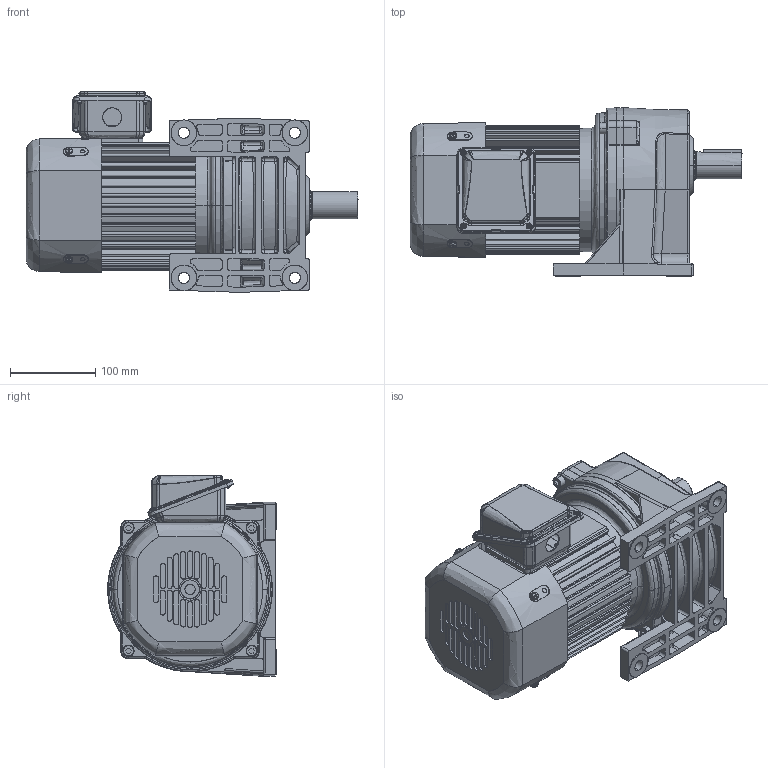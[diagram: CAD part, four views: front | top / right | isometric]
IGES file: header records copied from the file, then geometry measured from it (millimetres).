
Start section: SolidWorks IGES file using analytic representation for surfaces
Global section: file name: \\100.100.100.8\1_共有作業フォルダ\1-5_３Ｄデータ\solidworks\personal-folder\H.Nagayama\SGP1外形075~370\P1(3D)_075~370\igs\TML2-07-(30~80).IGS; native system: SolidWorks 2018; preprocessor: SolidWorks 2018; author: sigma-giken; date: 200806.161618; units: millimetre
Bounding box: 389 x 197.5 x 235.2 mm (x, y, z)
Surface area: 595136.1 mm2 (no closed solid volume)
Topology: 0 solids, 0 shells, 1714 faces, 20607 edges, 20577 vertices
Faces by surface type: bspline 866, revolution 848
